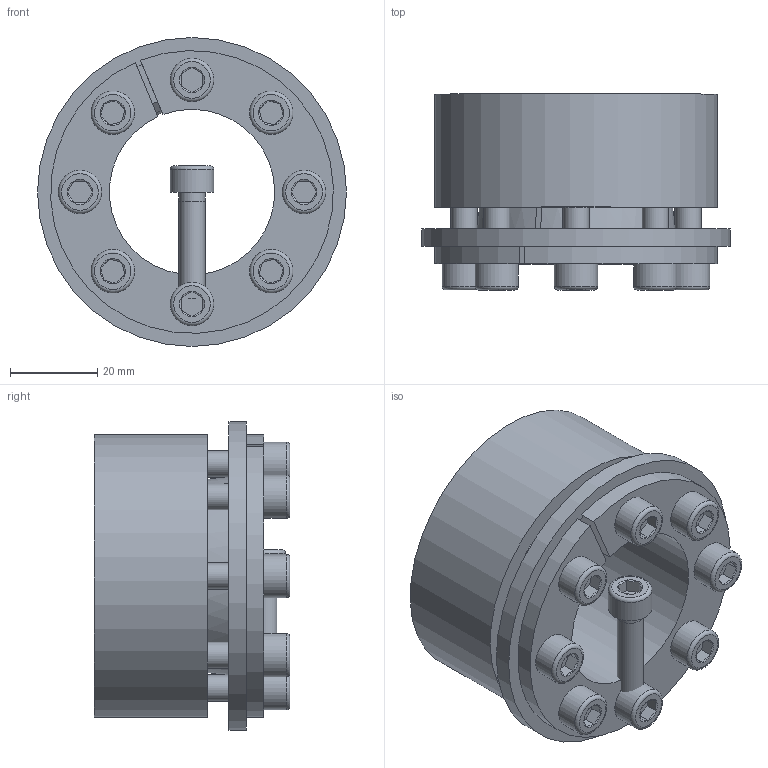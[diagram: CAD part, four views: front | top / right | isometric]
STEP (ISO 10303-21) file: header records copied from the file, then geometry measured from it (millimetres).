
FILE_DESCRIPTION( ( 'Unknown' ), '1' );
FILE_NAME( 'C:/Dokumente und Einstellungen/Sven/Desktop/homepage/cad - homepage/KBS71/KBS 71 - 38 x 65.stp', 'Unknown', ( 'Unknown' ), ( 'Unknown' ), 'XStep 1.0', 'Unknown', ' ' );
FILE_SCHEMA( ( 'automotive_design' ) );
Length unit declared in the file: millimetre
Products named in the file (3): Assem1; KBS 71 - 38 x 65; ISO EN DIN 4762 M6x25
Bounding box: 71 x 45 x 71 mm (x, y, z)
Volume: 150622.1 mm3; surface area: 61132.2 mm2
Topology: 11 solids, 11 shells, 305 faces, 667 edges, 400 vertices
Faces by surface type: plane 140, cylinder 76, cone 71, torus 18
Full cylindrical faces by diameter (mm): 5 x9, 6 x50, 10 x9, 71 x2
Entity records: 2351 total; most frequent: CARTESIAN_POINT 386, DIRECTION 351, ORIENTED_EDGE 280, AXIS2_PLACEMENT_3D 151, EDGE_CURVE 140, EDGE_LOOP 120, VERTEX_POINT 98, FACE_OUTER_BOUND 88
